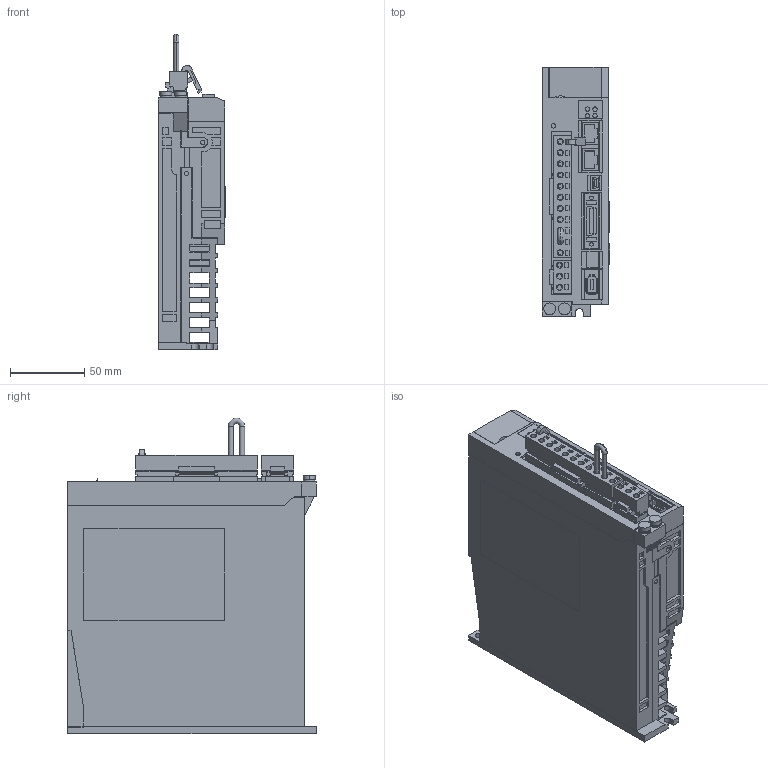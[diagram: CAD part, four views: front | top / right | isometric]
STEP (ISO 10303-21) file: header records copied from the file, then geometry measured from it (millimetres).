
FILE_DESCRIPTION (( 'STEP AP203' ), '1' );
FILE_NAME ('sgd7s_2r8aa0a.STEP', '2015-01-21T01:13:23', ( '匠エンジニアリング山之内' ), ( 'TAKUMI-Engniaring' ), 'SwSTEP 2.0', 'SolidWorks 2006303', '' );
FILE_SCHEMA (( 'CONFIG_CONTROL_DESIGN' ));
Products named in the file (11): sgd7s_2r8aa0a; sgd7s_2r8aa0a_cable; sgd7s_2r8aa0a_connector_1; sgd7s_2r8aa0a_base; sgd7s_2r8aa0a_connector; sgd7s_2r8aa0a_connector_2; sgd7s_2r8aa0a_pin; sgd7s_2r8aa0a_cover; sgd7s_2r8aa0a_cover2; sgd7s_2r8aa0a_connector_3; sgd7s_2r8aa0a_cover3
Assembly tree (11 placements, depth 3):
  sgd7s_2r8aa0a
    sgd7s_2r8aa0a_connector_3
    sgd7s_2r8aa0a_cover2  x2
    sgd7s_2r8aa0a_cover3
    sgd7s_2r8aa0a_cover
    sgd7s_2r8aa0a_connector_1
    sgd7s_2r8aa0a_connector
      sgd7s_2r8aa0a_connector_2
      sgd7s_2r8aa0a_cable
      sgd7s_2r8aa0a_pin
    sgd7s_2r8aa0a_base
Bounding box: 45.5 x 168 x 213 mm (x, y, z)
Volume: 1024425 mm3; surface area: 173318.6 mm2
Topology: 10 solids, 10 shells, 1752 faces, 4685 edges, 3088 vertices
Faces by surface type: plane 1602, cylinder 147, torus 2, sphere 1
Entity records: 54276 total; most frequent: CARTESIAN_POINT 9429, ORIENTED_EDGE 9262, DIRECTION 8425, EDGE_CURVE 4631, LINE 4329, VECTOR 4329, VERTEX_POINT 3052, AXIS2_PLACEMENT_3D 2048
